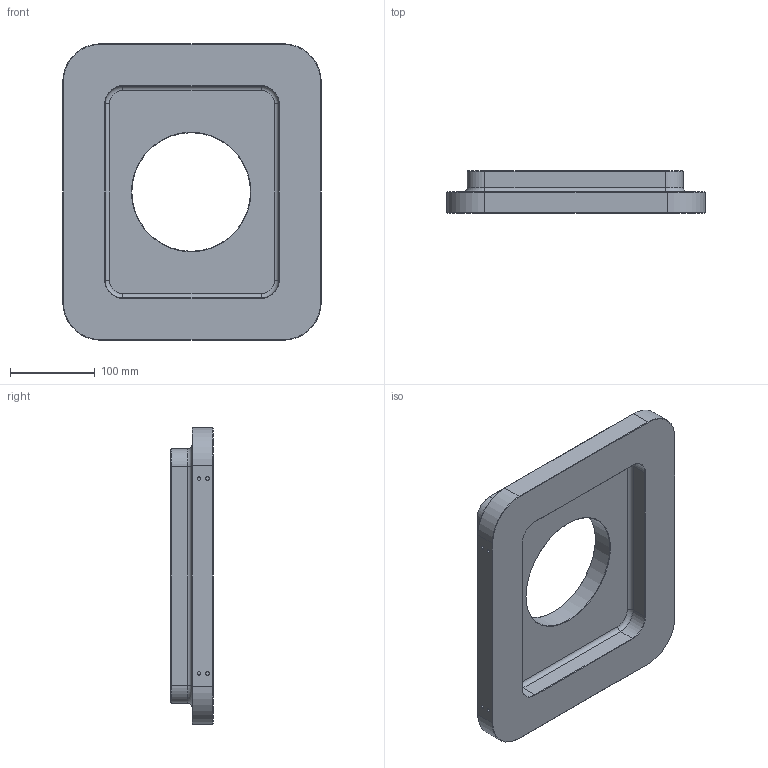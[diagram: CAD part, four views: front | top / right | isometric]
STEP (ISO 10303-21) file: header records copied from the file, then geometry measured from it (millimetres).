
FILE_DESCRIPTION(('FreeCAD Model'),'2;1');
FILE_NAME('Open CASCADE Shape Model','2025-03-26T18:05:35',(''),(''), 'Open CASCADE STEP processor 7.6','FreeCAD','Unknown');
FILE_SCHEMA(('CONFIG_CONTROL_DESIGN','SHAPE_APPEARANCE_LAYER_MIM'));
Length unit declared in the file: millimetre
Products named in the file (1): CryostatDoor
Bounding box: 305 x 50 x 350 mm (x, y, z)
Volume: 2875416.2 mm3; surface area: 269234.4 mm2
Topology: 1 solids, 1 shells, 119 faces, 235 edges, 140 vertices
Faces by surface type: plane 52, cylinder 41, cone 18, torus 8
Full cylindrical faces by diameter (mm): 4 x8, 4.92 x12, 140 x1
Entity records: 3093 total; most frequent: DIRECTION 583, CARTESIAN_POINT 495, ORIENTED_EDGE 470, EDGE_CURVE 235, AXIS2_PLACEMENT_3D 228, FACE_BOUND 143, EDGE_LOOP 143, VERTEX_POINT 140
